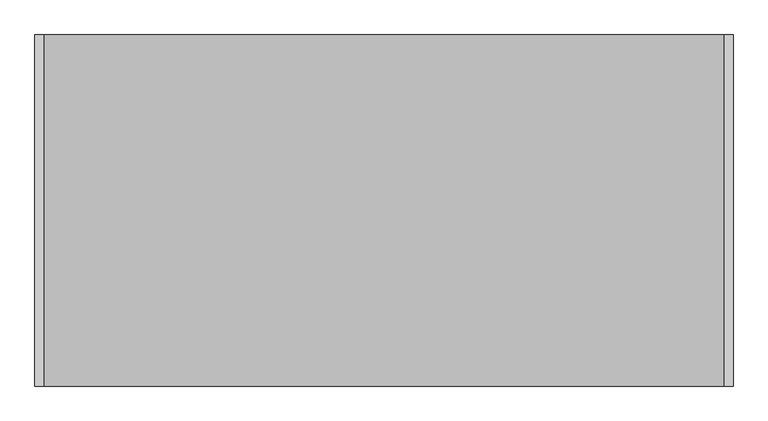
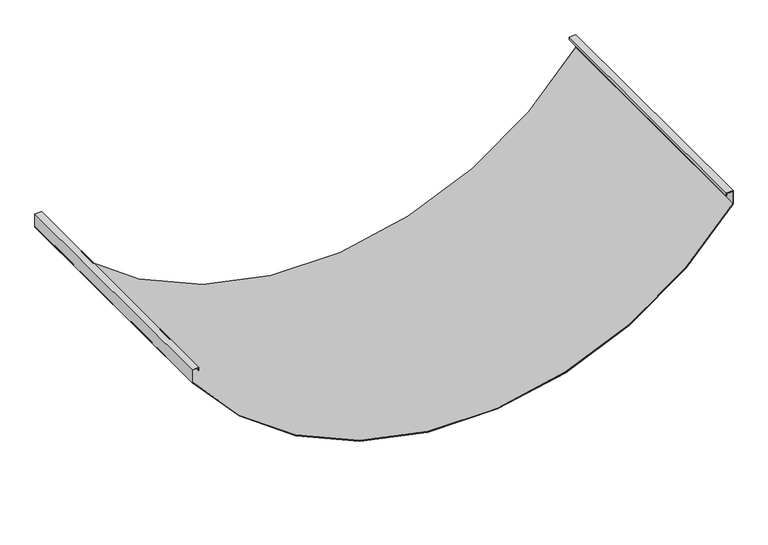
"""IFC4 building model written with IfcOpenShell, lengths in millimetres: proxy geometry, durlum_S7_DOMUS_panel : durlum_S7_DOMUS_panel_wall_length_cut."""

from ifc_helpers import new_model, si_unit, point, frame, frame_2d, origin, place, context, project, spatial, polyline, circle_curve, trimmed, segment, composite_curve, outline, extrude, source, transform, mapped, element, save


def generic_models_48d4e553(model_context):
    return source(origin(), model_context, "Body", "SweptSolid", [
        extrude(outline(composite_curve([segment(polyline([(0.3304807, 595.0), (2.0102268, 595.0)]), True, "CONTINUOUS"), segment(trimmed(circle_curve(frame_2d((442.0266667, 0.0)), 740.0266667), [point((2.0102268, 595.0))], [point((2.0102268, -595.0))], True, "CARTESIAN"), True, "CONTINUOUS"), segment(polyline([(2.0102268, -595.0), (0.3304807, -595.0)]), True, "CONTINUOUS"), segment(trimmed(circle_curve(frame_2d((442.0266667, 0.0)), 741.0266667), [point((0.3304807, -595.0))], [point((0.3304807, 595.0))], False, "CARTESIAN"), True, "CONTINUOUS")], self_intersect=False)), frame((0.0, -299.75, 0.0), z_axis=(0.0, 1.0, 0.0), x_axis=(0.0, 0.0, 1.0)), (0.0, 0.0, 1.0), 599.5),
        extrude(outline(polyline([(31.0, -596.0), (0.0, -596.0), (0.0, -595.0), (30.0, -595.0), (30.0, -582.0), (24.5, -582.0), (24.5, -581.0), (31.0, -581.0), (31.0, -596.0)])), frame((0.0, -299.75, 0.0), z_axis=(0.0, 1.0, 0.0), x_axis=(0.0, 0.0, 1.0)), (0.0, 0.0, 1.0), 599.5),
        extrude(outline(polyline([(31.0, 596.0), (31.0, 581.0), (24.5, 581.0), (24.5, 582.0), (30.0, 582.0), (30.0, 595.0), (0.0, 595.0), (0.0, 596.0), (31.0, 596.0)])), frame((0.0, -299.75, 0.0), z_axis=(0.0, 1.0, 0.0), x_axis=(0.0, 0.0, 1.0)), (0.0, 0.0, 1.0), 599.5),
        extrude(outline(composite_curve([segment(trimmed(circle_curve(frame_2d((442.0266667, 0.0)), 742.0266667), [point((0.0, -596.0))], [point((0.0, 596.0))], False, "CARTESIAN"), True, "CONTINUOUS"), segment(polyline([(0.0, 596.0), (1.6807564, 596.0)]), True, "CONTINUOUS"), segment(trimmed(circle_curve(frame_2d((442.0266667, 0.0)), 741.0266667), [point((1.6807564, 596.0))], [point((1.6807564, -596.0))], True, "CARTESIAN"), True, "CONTINUOUS"), segment(polyline([(1.6807564, -596.0), (0.0, -596.0)]), True, "CONTINUOUS")], self_intersect=False)), frame((0.0, -299.75, 0.0), z_axis=(0.0, 1.0, 0.0), x_axis=(0.0, 0.0, 1.0)), (0.0, 0.0, 1.0), 599.5),
    ])


if __name__ == "__main__":
    model = new_model("IFC4")
    model_context = context("Model", 3, world=origin())
    ifc_project = project(units=[si_unit("LENGTHUNIT", "METRE", prefix="MILLI")], contexts=[model_context])
    site = spatial("IfcSite", under=ifc_project)
    building = spatial("IfcBuilding", under=site)
    placement = place(None, origin())
    generic_models_shape = generic_models_48d4e553(model_context)
    element("IfcBuildingElementProxy", 1, Name="durlum_S7_DOMUS_panel : durlum_S7_DOMUS_panel_wall_length_cut", ObjectType="durlum_S7_DOMUS_panel : durlum_S7_DOMUS_panel_wall_length_cut", at=placement, inside=building, context=model_context, shape_type="MappedRepresentation", body=[
        mapped(generic_models_shape, transform((0.0, 0.0, 0.0), x_axis=(1.0, 0.0, 0.0), y_axis=(0.0, 1.0, 0.0), z_axis=(0.0, 0.0, 1.0))),
    ])
    save(model, "model.ifc")
